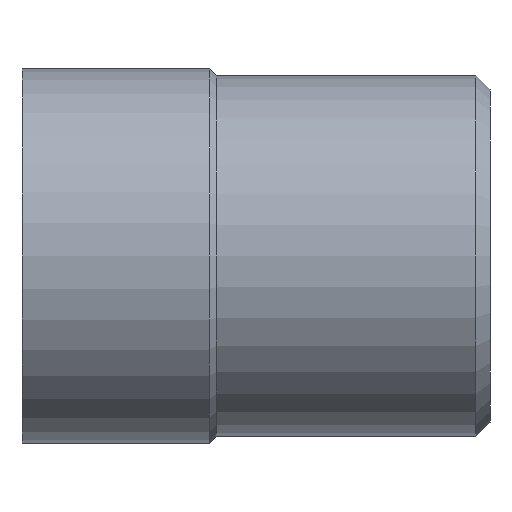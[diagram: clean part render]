
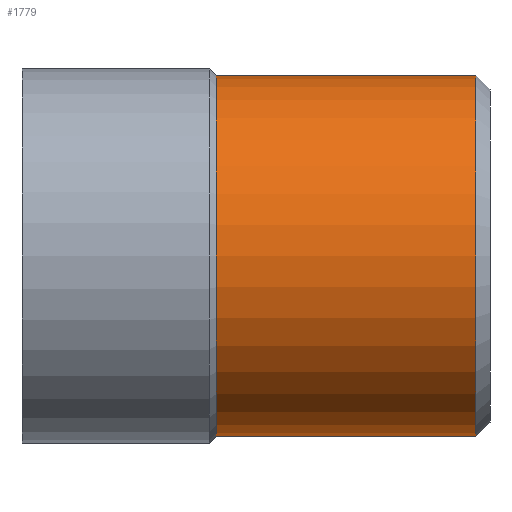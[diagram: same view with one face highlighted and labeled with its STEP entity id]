
A CAD part, left-side view. The second image highlights one B-rep face of the part: STEP entity #1779.
In plain terms, the highlighted cylindrical face has radius 3.85 mm (diameter 7.7 mm), a partial arc.
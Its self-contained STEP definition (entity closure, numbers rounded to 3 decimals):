
#323 = EDGE_LOOP ( 'NONE', ( #5905, #6604, #1200, #2962 ) ) ;
#347 = VECTOR ( 'NONE', #6024, 1000. ) ;
#679 = CARTESIAN_POINT ( 'NONE',  ( 0., -4.15, -3.85 ) ) ;
#833 = EDGE_CURVE ( 'NONE', #5659, #1708, #2200, .T. ) ;
#948 = CARTESIAN_POINT ( 'NONE',  ( 0., -4.15, 0. ) ) ;
#961 = CYLINDRICAL_SURFACE ( 'NONE', #6814, 3.85 ) ;
#1200 = ORIENTED_EDGE ( 'NONE', *, *, #1317, .T. ) ;
#1317 = EDGE_CURVE ( 'NONE', #4689, #1708, #7675, .T. ) ;
#1505 = VECTOR ( 'NONE', #2709, 1000. ) ;
#1708 = VERTEX_POINT ( 'NONE', #7410 ) ;
#1779 = ADVANCED_FACE ( 'NONE', ( #7290 ), #961, .T. ) ;
#1810 = CARTESIAN_POINT ( 'NONE',  ( 0., -9.7, 0. ) ) ;
#1911 = LINE ( 'NONE', #2466, #347 ) ;
#2071 = AXIS2_PLACEMENT_3D ( 'NONE', #1810, #5985, #2418 ) ;
#2200 = CIRCLE ( 'NONE', #5177, 3.85 ) ;
#2291 = CARTESIAN_POINT ( 'NONE',  ( 0., -9.7, -3.85 ) ) ;
#2418 = DIRECTION ( 'NONE',  ( 0., 0., 1. ) ) ;
#2466 = CARTESIAN_POINT ( 'NONE',  ( 0., 3.29, -3.85 ) ) ;
#2651 = CARTESIAN_POINT ( 'NONE',  ( 0., -9.7, 3.85 ) ) ;
#2709 = DIRECTION ( 'NONE',  ( 0., 1., 0. ) ) ;
#2962 = ORIENTED_EDGE ( 'NONE', *, *, #833, .F. ) ;
#3136 = EDGE_CURVE ( 'NONE', #6745, #4689, #5758, .T. ) ;
#3675 = DIRECTION ( 'NONE',  ( 0., 0., 1. ) ) ;
#3805 = EDGE_CURVE ( 'NONE', #6745, #5659, #1911, .T. ) ;
#3886 = CARTESIAN_POINT ( 'NONE',  ( 0., 3.29, 0. ) ) ;
#4689 = VERTEX_POINT ( 'NONE', #2651 ) ;
#4991 = DIRECTION ( 'NONE',  ( 0., 1., 0. ) ) ;
#5109 = DIRECTION ( 'NONE',  ( 0., 1., 0. ) ) ;
#5121 = CARTESIAN_POINT ( 'NONE',  ( 0., 3.29, 3.85 ) ) ;
#5177 = AXIS2_PLACEMENT_3D ( 'NONE', #948, #5109, #7488 ) ;
#5659 = VERTEX_POINT ( 'NONE', #679 ) ;
#5758 = CIRCLE ( 'NONE', #2071, 3.85 ) ;
#5905 = ORIENTED_EDGE ( 'NONE', *, *, #3805, .F. ) ;
#5985 = DIRECTION ( 'NONE',  ( 0., 1., 0. ) ) ;
#6024 = DIRECTION ( 'NONE',  ( 0., 1., 0. ) ) ;
#6604 = ORIENTED_EDGE ( 'NONE', *, *, #3136, .T. ) ;
#6745 = VERTEX_POINT ( 'NONE', #2291 ) ;
#6814 = AXIS2_PLACEMENT_3D ( 'NONE', #3886, #4991, #3675 ) ;
#7290 = FACE_OUTER_BOUND ( 'NONE', #323, .T. ) ;
#7410 = CARTESIAN_POINT ( 'NONE',  ( 0., -4.15, 3.85 ) ) ;
#7488 = DIRECTION ( 'NONE',  ( 0., 0., 1. ) ) ;
#7675 = LINE ( 'NONE', #5121, #1505 ) ;
